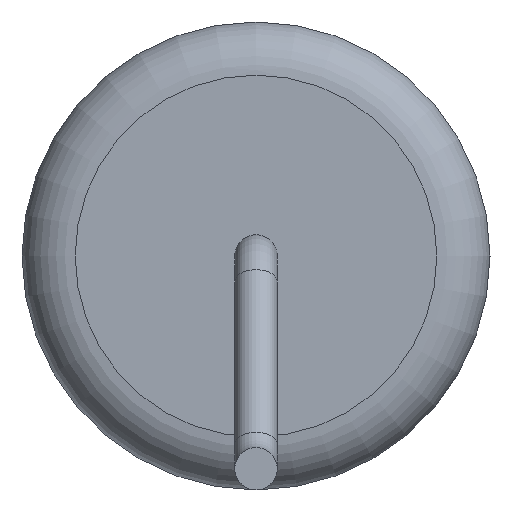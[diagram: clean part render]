
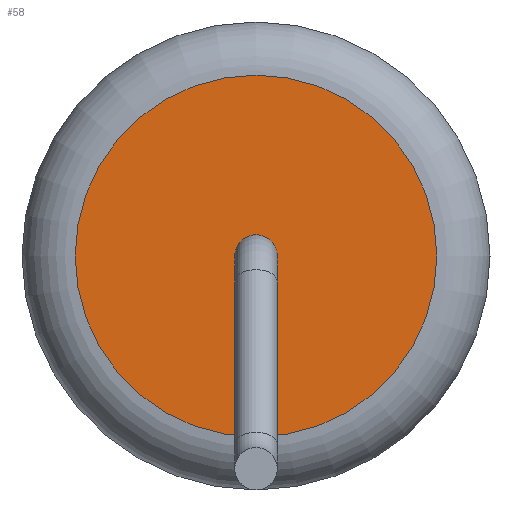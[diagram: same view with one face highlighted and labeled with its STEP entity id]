
A CAD part, left-side view. The second image highlights one B-rep face of the part: STEP entity #58.
In plain terms, the highlighted planar face has unit normal (-1, 0, 0).
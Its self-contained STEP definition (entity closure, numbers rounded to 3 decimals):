
#58=ADVANCED_FACE('',(#265,#267),#269,.T.);
#265=FACE_BOUND('',#266,.T.);
#266=EDGE_LOOP('',(#468));
#267=FACE_BOUND('',#268,.T.);
#268=EDGE_LOOP('',(#469));
#269=PLANE('',#270);
#270=AXIS2_PLACEMENT_3D('',#271,#272,#273);
#271=CARTESIAN_POINT('',(-9.25,0.,0.));
#272=DIRECTION('',(-1.,0.,0.));
#273=DIRECTION('',(0.,0.,1.));
#468=ORIENTED_EDGE('',*,*,#512,.T.);
#469=ORIENTED_EDGE('',*,*,#513,.F.);
#512=EDGE_CURVE('',#534,#534,#535,.T.);
#513=EDGE_CURVE('',#536,#536,#537,.F.);
#534=VERTEX_POINT('',#578);
#535=CIRCLE('',#579,3.4);
#536=VERTEX_POINT('',#583);
#537=CIRCLE('',#584,0.4);
#578=CARTESIAN_POINT('',(-9.25,0.,3.4));
#579=AXIS2_PLACEMENT_3D('',#580,#581,#582);
#580=CARTESIAN_POINT('',(-9.25,0.,0.));
#581=DIRECTION('',(-1.,0.,0.));
#582=DIRECTION('',(0.,0.,1.));
#583=CARTESIAN_POINT('',(-9.25,-0.4,0.));
#584=AXIS2_PLACEMENT_3D('',#585,#586,#587);
#585=CARTESIAN_POINT('',(-9.25,0.,0.));
#586=DIRECTION('',(1.,0.,0.));
#587=DIRECTION('',(0.,-1.,0.));
